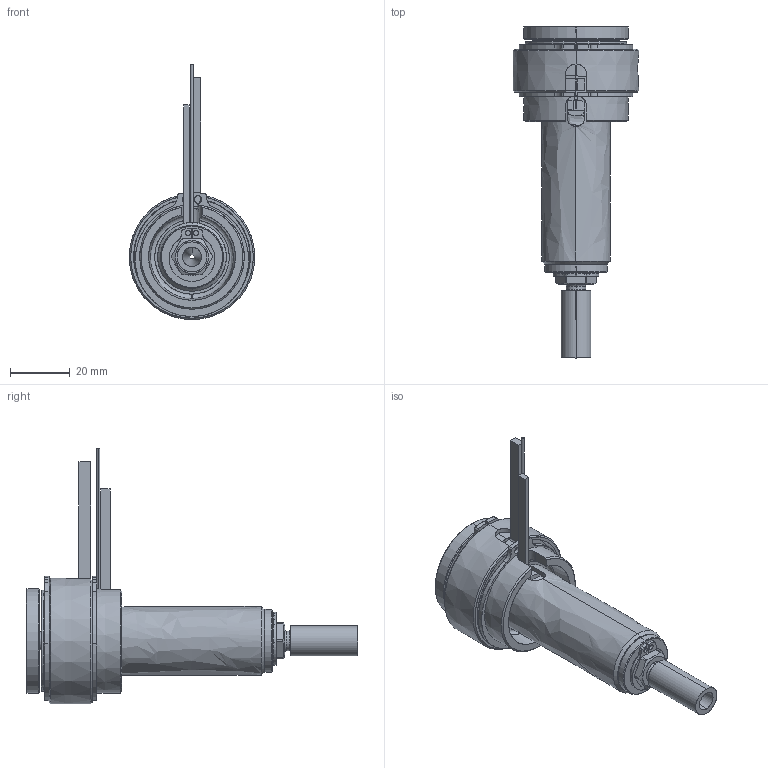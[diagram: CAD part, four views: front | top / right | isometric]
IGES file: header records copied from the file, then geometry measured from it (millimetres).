
Start section: SolidWorks IGES file using analytic representation for surfaces
Global section: file name: C:\Users\luca.EMPAD\Desktop\TEM\UGBE3501-S-A-P-5 [Ød-1.5 P-20 ØC-6.0].IGS; native system: SolidWorks 2012; preprocessor: SolidWorks 2012; author: luca; date: 120330.135620; units: millimetre
Bounding box: 42 x 111 x 85.4 mm (x, y, z)
Surface area: 28464.4 mm2 (no closed solid volume)
Topology: 0 solids, 0 shells, 193 faces, 3542 edges, 3542 vertices
Faces by surface type: revolution 124, bspline 69
